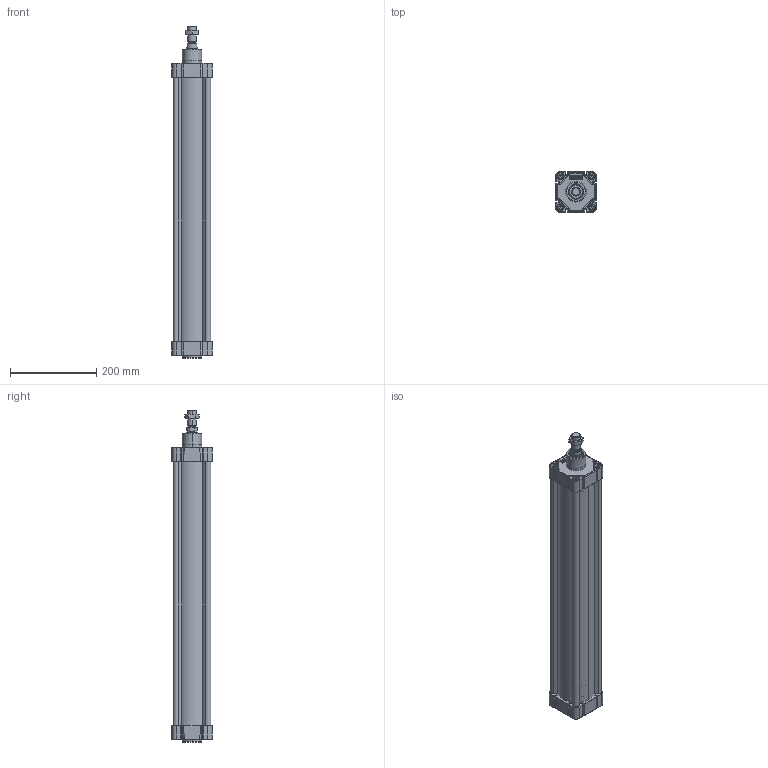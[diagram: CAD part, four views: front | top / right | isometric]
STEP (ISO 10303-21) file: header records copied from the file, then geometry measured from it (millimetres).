
FILE_DESCRIPTION (( 'STEP AP214' ), '1' );
FILE_NAME ('E11M20800550.STEP', '2021-10-27T12:23:12', ( '' ), ( '' ), 'SwSTEP 2.0', 'SolidWorks 2016', '' );
FILE_SCHEMA (( 'AUTOMOTIVE_DESIGN' ));
Length unit declared in the file: millimetre
Products named in the file (7): Pistone Ø80 ISO 15552; TA Ø80 ISO 15552 WEB; 21.E01.0000_21.E01.0550; 000.534.7_000.534.0550; 21.753.0; TP Ø80 ISO 15552 WEB; E11M20800550
Assembly tree (6 placements, depth 2):
  E11M20800550
    TP Ø80 ISO 15552 WEB
    TA Ø80 ISO 15552 WEB
    Pistone Ø80 ISO 15552
    21.E01.0000_21.E01.0550
    000.534.7_000.534.0550
    21.753.0
Bounding box: 93.95 x 93.97 x 769 mm (x, y, z)
Volume: 1686258.8 mm3; surface area: 794526.9 mm2
Topology: 17 solids, 18 shells, 2128 faces, 5468 edges, 3473 vertices
Faces by surface type: plane 874, cylinder 689, cone 262, bspline 214, torus 85, sphere 4
Entity records: 91998 total; most frequent: CARTESIAN_POINT 20658, ORIENTED_EDGE 10892, DIRECTION 10080, EDGE_CURVE 5446, AXIS2_PLACEMENT_3D 3595, VERTEX_POINT 3473, VECTOR 2890, LINE 2890
